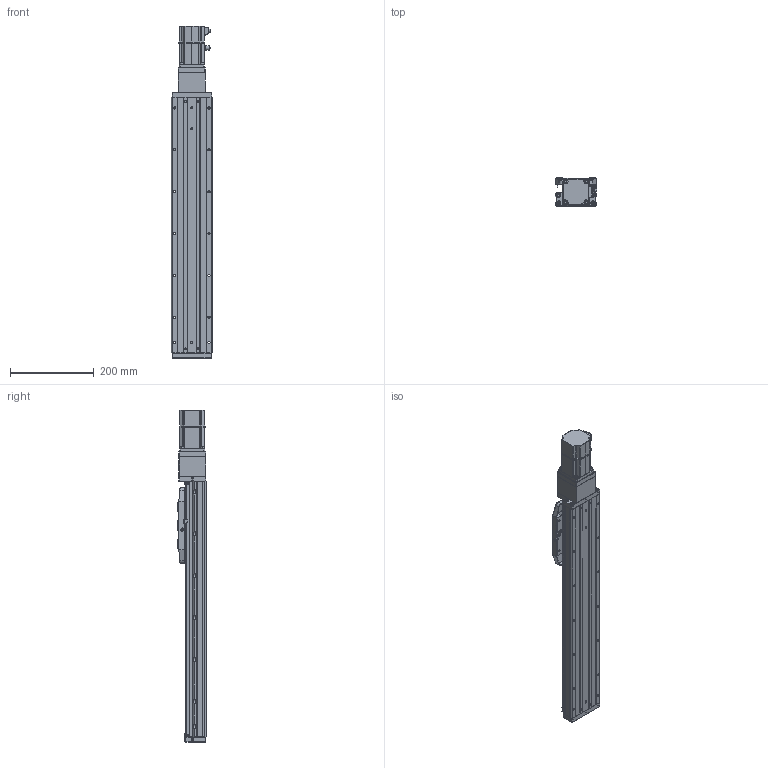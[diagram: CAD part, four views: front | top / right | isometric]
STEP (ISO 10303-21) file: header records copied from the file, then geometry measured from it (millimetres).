
FILE_DESCRIPTION (( 'STEP AP203' ), '1' );
FILE_NAME ('CTHA100-400-BC-M20-C4L.step', '2022-07-06T08:52:28', ( '微软用户' ), ( '微软中国' ), 'SwSTEP 2.0', 'SolidWorks 2020', '' );
FILE_SCHEMA (( 'CONFIG_CONTROL_DESIGN' ));
Length unit declared in the file: millimetre
Products named in the file (20): CTHA100-400-BC-M20-C4L; CTHA60-021; CTHA86-027; KTHA100-001_610; GBT77-2000 M3×3; CTHA86-006-1_CTHA86-006-2; KTHA100-004; GBT 70.1-M3℅6; GBT 70.3-M3℅6; KTHA100-005; GBT70.1 M5℅16; CTHA100-002; GB¨uT 70.2-M3¡Á5_M3¡Á6; CTHA60-016; CTHA100-031; EE_SX911P_R; _X2_4E0983F1_X0_200W_1; CTHA86-030; CTHA60-017; CTHA86-013
Assembly tree (63 placements, depth 2):
  CTHA100-400-BC-M20-C4L
    KTHA100-001_610
    KTHA100-004
    KTHA100-005
    GB¨uT 70.2-M3¡Á5_M3¡Á6  x10
    EE_SX911P_R  x3
    CTHA60-017  x3
    CTHA60-021  x2
    GBT77-2000 M3×3  x6
    GBT 70.1-M3℅6  x6
    GBT70.1 M5℅16  x14
    CTHA60-016  x2
    _X2_4E0983F1_X0_200W_1
    CTHA86-013
    CTHA86-027
    CTHA86-006-1_CTHA86-006-2
    GBT 70.3-M3℅6  x6
    CTHA100-002
    CTHA100-031
    CTHA86-030  x2
Bounding box: 98.82 x 68 x 792.5 mm (x, y, z)
Volume: 2913071 mm3; surface area: 521456.2 mm2
Topology: 65 solids, 65 shells, 2619 faces, 6270 edges, 3868 vertices
Faces by surface type: plane 1363, cylinder 679, cone 372, torus 112, bspline 69, sphere 24
Entity records: 44996 total; most frequent: CARTESIAN_POINT 8450, DIRECTION 7041, ORIENTED_EDGE 6812, EDGE_CURVE 3406, AXIS2_PLACEMENT_3D 2395, VECTOR 2251, LINE 2251, VERTEX_POINT 2146
